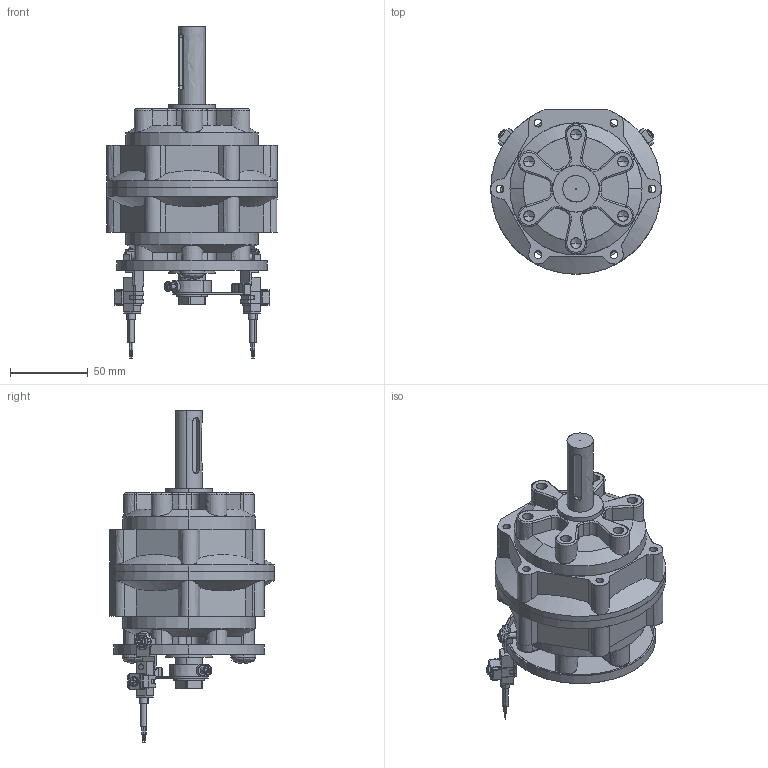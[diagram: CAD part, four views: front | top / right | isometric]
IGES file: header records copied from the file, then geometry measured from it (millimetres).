
Start section: SolidWorks IGES file using analytic representation for surfaces
Global section: file name: C:\Users\Chieh_Lu\Dropbox\¤u§@«Ç\PRN50-150-300-800\PRN150\PRN150\PRN150#-#-#-#-FM-#.IGS; native system: SolidWorks 2014; preprocessor: SolidWorks 2014; author: Chieh_Lu; date: 160115.004253; units: millimetre
Bounding box: 110 x 106.11 x 214.2 mm (x, y, z)
Surface area: 127827.3 mm2 (no closed solid volume)
Topology: 0 solids, 0 shells, 1063 faces, 12409 edges, 12359 vertices
Faces by surface type: bspline 598, revolution 465
